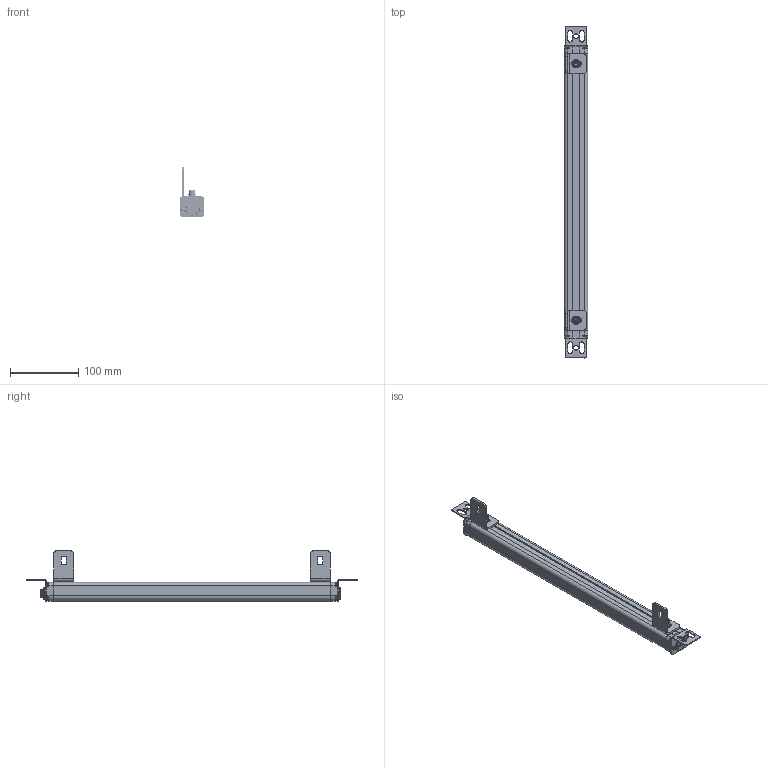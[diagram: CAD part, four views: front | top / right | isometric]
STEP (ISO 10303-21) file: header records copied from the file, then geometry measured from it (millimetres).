
FILE_DESCRIPTION((''),'2;1');
FILE_NAME('ELG-0440_ASM','2021-08-07T10:48:45',('18720616900'),(''),'CREO PARAMETRIC BY PTC INC, 2019010','CREO PARAMETRIC BY PTC INC, 2019010','');
FILE_SCHEMA(('CONFIG_CONTROL_DESIGN'));
Products named in the file (18): ELG--00; ELG--000; ELG000; M3--0001; 3000; 3--0001; ELG_30001_ASM; ST-3-12; L20001; M3-6; L10001; M6-1--00; M6-1-00; M6-8--0001; 00; L1--0001_ASM; ELG-0440_ASM
Assembly tree (34 placements, depth 3):
  ELG-0440_ASM
    ELG--00
    ELG--000
    ELG000
    ELG000
    M3--0001  x4
    ELG_30001_ASM
      3000
      3--0001  x3
    ST-3-12  x8
    L20001  x2
    M3-6  x4
    L1--0001_ASM  x2
      L10001
      M6-1--00
      M6-1-00
      M6-8--0001
      00
Bounding box: 35 x 485 x 73.4 mm (x, y, z)
Volume: 377429.1 mm3; surface area: 110927.5 mm2
Topology: 36 solids, 36 shells, 3404 faces, 9468 edges, 6167 vertices
Faces by surface type: cylinder 1928, plane 616, bspline 398, cone 353, torus 99, sphere 10
Entity records: 68753 total; most frequent: CARTESIAN_POINT 35026, ORIENTED_EDGE 7326, DIRECTION 6679, EDGE_CURVE 3663, AXIS2_PLACEMENT_3D 2530, VERTEX_POINT 2387, VECTOR 1619, LINE 1619
